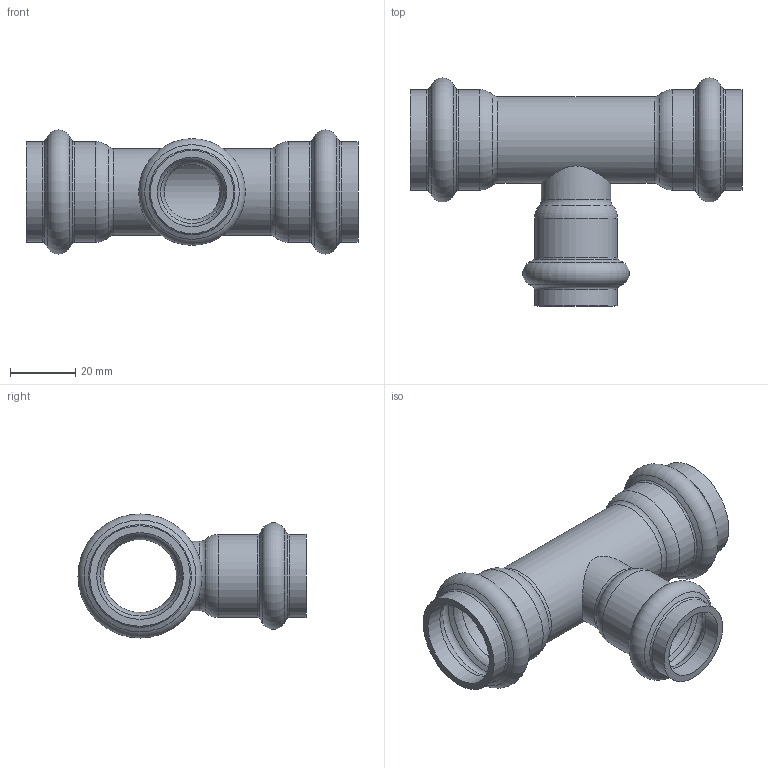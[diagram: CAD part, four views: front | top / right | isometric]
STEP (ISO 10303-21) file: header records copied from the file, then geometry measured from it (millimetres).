
FILE_DESCRIPTION(/* description */ ('VIC TEE RED. BRANCH STYLE P593 (P X P X P)','CAx-IF Rec.Pracs.---Representation and Presentation of Product Manufacturing Information (PMI)---4.0---2014-10-13'),/* implementation_level */ '2;1');
FILE_NAME(/* name */ 'C:\Users\Vjadhav\AppData\Roaming\Autodesk\ApplicationPlugins\Back Up\Victaulic_SS-Vic-Press-TP 304_Tee Reducing_Style P593 (VP)\Victaulic_SS-Vic-Press-TP 304_Tee Reducing_Style P593 (VP)_0.75x0.50 (20x15).stp',/* time_stamp */ '2020-08-12T18:32:21+05:00',/* author */ ('cgray'),/* organization */ ('Victaulic'),/* preprocessor_version */ 'ST-DEVELOPER v17.2',/* originating_system */ 'Autodesk Inventor 2019',/* authorisation */ '');
FILE_SCHEMA (('AP242_MANAGED_MODEL_BASED_3D_ENGINEERING_MIM_LF { 1 0 10303 442 1 1 4 }'));
Length unit declared in the file: inch
Products named in the file (1): P593-0.75x0.5
Bounding box: 102.11 x 70.13 x 38.15 mm (x, y, z)
Volume: 26264.9 mm3; surface area: 25441.6 mm2
Topology: 1 solids, 1 shells, 61 faces, 220 edges, 160 vertices
Faces by surface type: torus 30, cylinder 16, cone 12, plane 3
Full cylindrical faces by diameter (mm): 17.12 x1, 21.336 x3, 22.454 x1, 25.552 x2, 26.67 x5, 30.886 x4
Entity records: 2817 total; most frequent: CARTESIAN_POINT 555, DIRECTION 544, ORIENTED_EDGE 440, AXIS2_PLACEMENT_3D 257, EDGE_CURVE 220, CIRCLE 182, VERTEX_POINT 160, EDGE_LOOP 64
